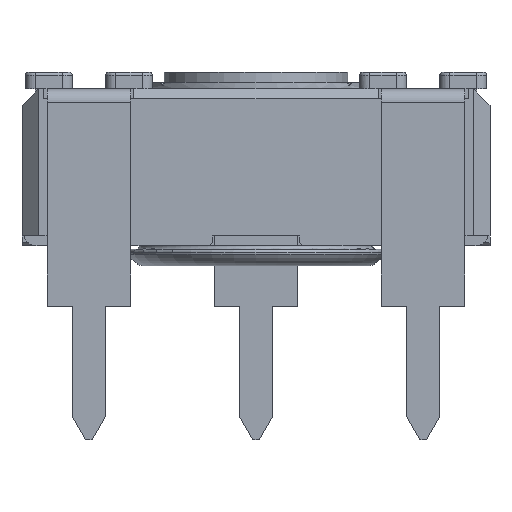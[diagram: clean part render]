
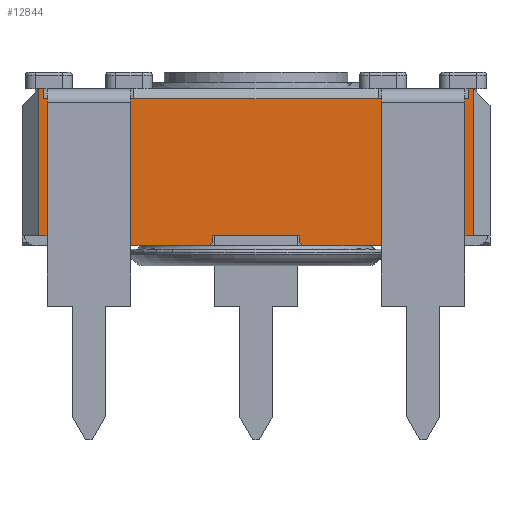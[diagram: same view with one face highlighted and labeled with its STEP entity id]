
A CAD part, front view. The second image highlights one B-rep face of the part: STEP entity #12844.
In plain terms, the highlighted planar face has unit normal (0, -1, 0).
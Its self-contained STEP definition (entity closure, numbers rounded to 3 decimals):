
#415=PLANE('',#13700);
#1009=FACE_OUTER_BOUND('',#1683,.T.);
#1683=EDGE_LOOP('',(#10396,#10397,#10398,#10399,#10400,#10401,#10402,#10403,
#10404,#10405,#10406,#10407,#10408,#10409,#10410,#10411,#10412,#10413,#10414,
#10415,#10416,#10417,#10418,#10419,#10420));
#2171=LINE('',#18085,#3656);
#2179=LINE('',#18105,#3664);
#2203=LINE('',#18152,#3688);
#2204=LINE('',#18154,#3689);
#2209=LINE('',#18165,#3694);
#2233=LINE('',#18212,#3718);
#2421=LINE('',#18767,#3906);
#2434=LINE('',#18791,#3919);
#2584=LINE('',#19336,#4069);
#2789=LINE('',#19859,#4274);
#2794=LINE('',#19869,#4279);
#2799=LINE('',#19879,#4284);
#2814=LINE('',#19905,#4299);
#2922=LINE('',#20223,#4407);
#2930=LINE('',#20241,#4415);
#2936=LINE('',#20249,#4421);
#2937=LINE('',#20252,#4422);
#2938=LINE('',#20254,#4423);
#2939=LINE('',#20256,#4424);
#2940=LINE('',#20257,#4425);
#2941=LINE('',#20258,#4426);
#2942=LINE('',#20259,#4427);
#2943=LINE('',#20260,#4428);
#2944=LINE('',#20261,#4429);
#2945=LINE('',#20262,#4430);
#3656=VECTOR('',#14480,10.);
#3664=VECTOR('',#14502,10.);
#3688=VECTOR('',#14528,10.);
#3689=VECTOR('',#14531,10.);
#3694=VECTOR('',#14546,10.);
#3718=VECTOR('',#14572,10.);
#3906=VECTOR('',#15134,10.);
#3919=VECTOR('',#15161,10.);
#4069=VECTOR('',#15529,10.);
#4274=VECTOR('',#15876,10.);
#4279=VECTOR('',#15881,10.);
#4284=VECTOR('',#15886,10.);
#4299=VECTOR('',#15903,10.);
#4407=VECTOR('',#16159,10.);
#4415=VECTOR('',#16171,10.);
#4421=VECTOR('',#16181,10.);
#4422=VECTOR('',#16184,10.);
#4423=VECTOR('',#16185,10.);
#4424=VECTOR('',#16186,10.);
#4425=VECTOR('',#16187,10.);
#4426=VECTOR('',#16188,10.);
#4427=VECTOR('',#16189,10.);
#4428=VECTOR('',#16190,10.);
#4429=VECTOR('',#16191,10.);
#4430=VECTOR('',#16192,10.);
#5374=VERTEX_POINT('',#17940);
#5380=VERTEX_POINT('',#17957);
#5390=VERTEX_POINT('',#17979);
#5437=VERTEX_POINT('',#18084);
#5442=VERTEX_POINT('',#18104);
#5464=VERTEX_POINT('',#18150);
#5465=VERTEX_POINT('',#18164);
#5487=VERTEX_POINT('',#18210);
#5666=VERTEX_POINT('',#18764);
#5667=VERTEX_POINT('',#18766);
#5670=VERTEX_POINT('',#18788);
#5671=VERTEX_POINT('',#18790);
#5800=VERTEX_POINT('',#19332);
#5952=VERTEX_POINT('',#19858);
#5956=VERTEX_POINT('',#19866);
#5957=VERTEX_POINT('',#19868);
#5961=VERTEX_POINT('',#19876);
#5962=VERTEX_POINT('',#19878);
#6039=VERTEX_POINT('',#20221);
#6040=VERTEX_POINT('',#20222);
#6047=VERTEX_POINT('',#20239);
#6048=VERTEX_POINT('',#20240);
#6049=VERTEX_POINT('',#20251);
#6050=VERTEX_POINT('',#20253);
#6051=VERTEX_POINT('',#20255);
#6683=EDGE_CURVE('',#5437,#5374,#2171,.T.);
#6693=EDGE_CURVE('',#5442,#5437,#2179,.T.);
#6717=EDGE_CURVE('',#5374,#5464,#2203,.T.);
#6718=EDGE_CURVE('',#5380,#5390,#2204,.T.);
#6723=EDGE_CURVE('',#5465,#5380,#2209,.T.);
#6747=EDGE_CURVE('',#5390,#5487,#2233,.T.);
#7026=EDGE_CURVE('',#5667,#5666,#2421,.T.);
#7039=EDGE_CURVE('',#5671,#5670,#2434,.T.);
#7244=EDGE_CURVE('',#5671,#5800,#2584,.T.);
#7470=EDGE_CURVE('',#5952,#5800,#2789,.T.);
#7475=EDGE_CURVE('',#5957,#5956,#2794,.T.);
#7480=EDGE_CURVE('',#5962,#5961,#2799,.T.);
#7495=EDGE_CURVE('',#5962,#5666,#2814,.T.);
#7622=EDGE_CURVE('',#6039,#6040,#2922,.T.);
#7630=EDGE_CURVE('',#6047,#6048,#2930,.T.);
#7636=EDGE_CURVE('',#5957,#6039,#2936,.T.);
#7637=EDGE_CURVE('',#5956,#6049,#2937,.T.);
#7638=EDGE_CURVE('',#6050,#6049,#2938,.T.);
#7639=EDGE_CURVE('',#6050,#6051,#2939,.T.);
#7640=EDGE_CURVE('',#6051,#5952,#2940,.T.);
#7641=EDGE_CURVE('',#5670,#5465,#2941,.T.);
#7642=EDGE_CURVE('',#5442,#5487,#2942,.T.);
#7643=EDGE_CURVE('',#5464,#5667,#2943,.T.);
#7644=EDGE_CURVE('',#5961,#6048,#2944,.T.);
#7645=EDGE_CURVE('',#6047,#6040,#2945,.T.);
#10396=ORIENTED_EDGE('',*,*,#7622,.F.);
#10397=ORIENTED_EDGE('',*,*,#7636,.F.);
#10398=ORIENTED_EDGE('',*,*,#7475,.T.);
#10399=ORIENTED_EDGE('',*,*,#7637,.T.);
#10400=ORIENTED_EDGE('',*,*,#7638,.F.);
#10401=ORIENTED_EDGE('',*,*,#7639,.T.);
#10402=ORIENTED_EDGE('',*,*,#7640,.T.);
#10403=ORIENTED_EDGE('',*,*,#7470,.T.);
#10404=ORIENTED_EDGE('',*,*,#7244,.F.);
#10405=ORIENTED_EDGE('',*,*,#7039,.T.);
#10406=ORIENTED_EDGE('',*,*,#7641,.T.);
#10407=ORIENTED_EDGE('',*,*,#6723,.T.);
#10408=ORIENTED_EDGE('',*,*,#6718,.T.);
#10409=ORIENTED_EDGE('',*,*,#6747,.T.);
#10410=ORIENTED_EDGE('',*,*,#7642,.F.);
#10411=ORIENTED_EDGE('',*,*,#6693,.T.);
#10412=ORIENTED_EDGE('',*,*,#6683,.T.);
#10413=ORIENTED_EDGE('',*,*,#6717,.T.);
#10414=ORIENTED_EDGE('',*,*,#7643,.T.);
#10415=ORIENTED_EDGE('',*,*,#7026,.T.);
#10416=ORIENTED_EDGE('',*,*,#7495,.F.);
#10417=ORIENTED_EDGE('',*,*,#7480,.T.);
#10418=ORIENTED_EDGE('',*,*,#7644,.T.);
#10419=ORIENTED_EDGE('',*,*,#7630,.F.);
#10420=ORIENTED_EDGE('',*,*,#7645,.T.);
#12844=ADVANCED_FACE('',(#1009),#415,.T.);
#13700=AXIS2_PLACEMENT_3D('',#20250,#16182,#16183);
#14480=DIRECTION('',(-1.,0.,0.));
#14502=DIRECTION('',(-1.,0.,0.));
#14528=DIRECTION('',(-1.,0.,0.));
#14531=DIRECTION('',(-1.,0.,0.));
#14546=DIRECTION('',(-1.,0.,0.));
#14572=DIRECTION('',(-1.,0.,0.));
#15134=DIRECTION('',(-1.,0.,0.));
#15161=DIRECTION('',(-1.,0.,0.));
#15529=DIRECTION('',(0.,0.,-1.));
#15876=DIRECTION('',(1.,0.,0.));
#15881=DIRECTION('',(1.,0.,0.));
#15886=DIRECTION('',(1.,0.,0.));
#15903=DIRECTION('',(0.,0.,1.));
#16159=DIRECTION('',(-0.707,0.,-0.707));
#16171=DIRECTION('',(-0.707,0.,0.707));
#16181=DIRECTION('',(0.,0.,-1.));
#16182=DIRECTION('center_axis',(0.,-1.,0.));
#16183=DIRECTION('ref_axis',(0.,0.,-1.));
#16184=DIRECTION('',(0.,0.,-1.));
#16185=DIRECTION('',(-0.707,0.,0.707));
#16186=DIRECTION('',(1.,0.,0.));
#16187=DIRECTION('',(0.,0.,1.));
#16188=DIRECTION('',(0.,0.,-1.));
#16189=DIRECTION('',(1.,0.,0.));
#16190=DIRECTION('',(0.,0.,1.));
#16191=DIRECTION('',(0.,0.,-1.));
#16192=DIRECTION('',(1.,0.,0.));
#17940=CARTESIAN_POINT('',(-13.717,-9.898,4.1));
#17957=CARTESIAN_POINT('',(-1.217,-9.898,4.1));
#17979=CARTESIAN_POINT('',(-3.717,-9.898,4.1));
#18084=CARTESIAN_POINT('',(-11.217,-9.898,4.1));
#18085=CARTESIAN_POINT('',(-3.944,-9.898,4.1));
#18104=CARTESIAN_POINT('',(-11.117,-9.898,4.1));
#18105=CARTESIAN_POINT('',(-3.944,-9.898,4.1));
#18150=CARTESIAN_POINT('',(-13.817,-9.898,4.1));
#18152=CARTESIAN_POINT('',(-3.944,-9.898,4.1));
#18154=CARTESIAN_POINT('',(-1.862,-9.898,4.1));
#18164=CARTESIAN_POINT('',(-1.117,-9.898,4.1));
#18165=CARTESIAN_POINT('',(-1.862,-9.898,4.1));
#18210=CARTESIAN_POINT('',(-3.817,-9.898,4.1));
#18212=CARTESIAN_POINT('',(-1.862,-9.898,4.1));
#18764=CARTESIAN_POINT('',(-13.967,-9.898,4.4));
#18766=CARTESIAN_POINT('',(-13.817,-9.898,4.4));
#18767=CARTESIAN_POINT('',(-14.467,-9.898,4.4));
#18788=CARTESIAN_POINT('',(-1.117,-9.898,4.4));
#18790=CARTESIAN_POINT('',(-0.967,-9.898,4.4));
#18791=CARTESIAN_POINT('',(-14.467,-9.898,4.4));
#19332=CARTESIAN_POINT('',(-0.967,-9.898,0.));
#19336=CARTESIAN_POINT('',(-0.967,-9.898,0.));
#19858=CARTESIAN_POINT('',(-1.467,-9.898,0.));
#19859=CARTESIAN_POINT('',(-0.646,-9.898,0.));
#19866=CARTESIAN_POINT('',(-6.167,-9.898,0.));
#19868=CARTESIAN_POINT('',(-8.767,-9.898,0.));
#19869=CARTESIAN_POINT('',(-14.467,-9.898,0.));
#19876=CARTESIAN_POINT('',(-13.467,-9.898,0.));
#19878=CARTESIAN_POINT('',(-13.967,-9.898,0.));
#19879=CARTESIAN_POINT('',(-7.245,-9.898,0.));
#19905=CARTESIAN_POINT('',(-13.967,-9.898,0.));
#20221=CARTESIAN_POINT('',(-8.767,-9.898,-0.2));
#20222=CARTESIAN_POINT('',(-8.867,-9.898,-0.3));
#20223=CARTESIAN_POINT('',(-6.667,-9.898,1.9));
#20239=CARTESIAN_POINT('',(-13.367,-9.898,-0.3));
#20240=CARTESIAN_POINT('',(-13.467,-9.898,-0.2));
#20241=CARTESIAN_POINT('',(-10.242,-9.898,-3.425));
#20249=CARTESIAN_POINT('',(-8.767,-9.898,0.));
#20250=CARTESIAN_POINT('Origin',(-0.467,-9.898,0.));
#20251=CARTESIAN_POINT('',(-6.167,-9.898,-0.2));
#20252=CARTESIAN_POINT('',(-6.167,-9.898,0.));
#20253=CARTESIAN_POINT('',(-6.067,-9.898,-0.3));
#20254=CARTESIAN_POINT('',(-4.767,-9.898,-1.6));
#20255=CARTESIAN_POINT('',(-1.467,-9.898,-0.3));
#20256=CARTESIAN_POINT('',(-0.467,-9.898,-0.3));
#20257=CARTESIAN_POINT('',(-1.467,-9.898,-0.15));
#20258=CARTESIAN_POINT('',(-1.117,-9.898,2.2));
#20259=CARTESIAN_POINT('',(-3.967,-9.898,4.1));
#20260=CARTESIAN_POINT('',(-13.817,-9.898,2.2));
#20261=CARTESIAN_POINT('',(-13.467,-9.898,-0.15));
#20262=CARTESIAN_POINT('',(-0.467,-9.898,-0.3));
